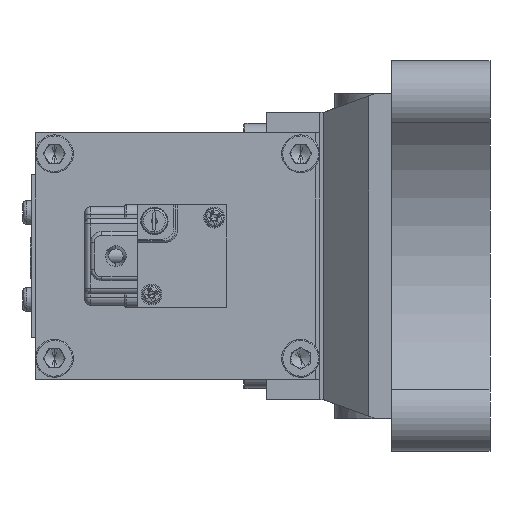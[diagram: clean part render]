
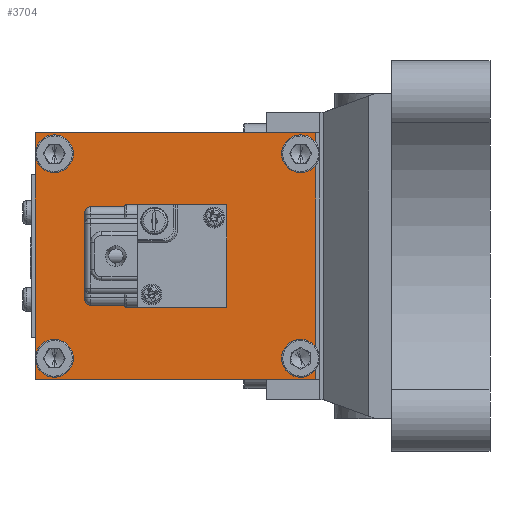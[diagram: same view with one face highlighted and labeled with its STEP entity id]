
A CAD part, left-side view. The second image highlights one B-rep face of the part: STEP entity #3704.
In plain terms, the highlighted planar face has unit normal (-1, 0, 0) as drawn and (1, 0, 0) by its records, which use the part's own axes.
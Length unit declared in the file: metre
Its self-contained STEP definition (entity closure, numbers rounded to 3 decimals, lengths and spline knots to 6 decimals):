
#183 = VECTOR ( 'NONE', #6155, 1. ) ;
#616 = AXIS2_PLACEMENT_3D ( 'NONE', #14444, #6645, #15755 ) ;
#646 = CARTESIAN_POINT ( 'NONE',  ( 0.08, 0.071, -0.024 ) ) ;
#668 = FACE_OUTER_BOUND ( 'NONE', #4512, .T. ) ;
#692 = CARTESIAN_POINT ( 'NONE',  ( 0.08, 0.006, 0.024 ) ) ;
#929 = DIRECTION ( 'NONE',  ( 1., 0., 0. ) ) ;
#989 = CIRCLE ( 'NONE', #8451, 0.003 ) ;
#1253 = EDGE_CURVE ( 'NONE', #10851, #3340, #15269, .T. ) ;
#1273 = VECTOR ( 'NONE', #12739, 1. ) ;
#1522 = VERTEX_POINT ( 'NONE', #13158 ) ;
#1697 = EDGE_CURVE ( 'NONE', #10309, #2876, #6268, .T. ) ;
#1699 = CARTESIAN_POINT ( 'NONE',  ( 0.08, 0.076, -0.0325 ) ) ;
#1804 = EDGE_CURVE ( 'NONE', #10595, #6824, #11958, .T. ) ;
#2137 = CARTESIAN_POINT ( 'NONE',  ( 0.08, 0.006, -0.027 ) ) ;
#2494 = EDGE_CURVE ( 'NONE', #2641, #15192, #11131, .T. ) ;
#2556 = VERTEX_POINT ( 'NONE', #9366 ) ;
#2641 = VERTEX_POINT ( 'NONE', #646 ) ;
#2772 = CARTESIAN_POINT ( 'NONE',  ( 0.08, 0.071, 0.03 ) ) ;
#2876 = VERTEX_POINT ( 'NONE', #14132 ) ;
#2915 = EDGE_CURVE ( 'NONE', #15192, #2641, #16204, .T. ) ;
#3018 = AXIS2_PLACEMENT_3D ( 'NONE', #5671, #5841, #6317 ) ;
#3340 = VERTEX_POINT ( 'NONE', #13738 ) ;
#3341 = ORIENTED_EDGE ( 'NONE', *, *, #11790, .F. ) ;
#3477 = DIRECTION ( 'NONE',  ( 0., 0., -1. ) ) ;
#3510 = LINE ( 'NONE', #13229, #12272 ) ;
#3704 = ADVANCED_FACE ( 'NONE', ( #7634, #4997, #14549, #4155, #668 ), #7284, .F. ) ;
#3721 = AXIS2_PLACEMENT_3D ( 'NONE', #14893, #14912, #14932 ) ;
#3784 = DIRECTION ( 'NONE',  ( 0., 0., -1. ) ) ;
#3909 = EDGE_LOOP ( 'NONE', ( #15126, #3341 ) ) ;
#3995 = EDGE_CURVE ( 'NONE', #8355, #1522, #11299, .T. ) ;
#4155 = FACE_BOUND ( 'NONE', #5351, .T. ) ;
#4512 = EDGE_LOOP ( 'NONE', ( #7330, #5057, #11263, #8601 ) ) ;
#4610 = DIRECTION ( 'NONE',  ( 0., 0., -1. ) ) ;
#4888 = CARTESIAN_POINT ( 'NONE',  ( 0.08, 0.071, 0.027 ) ) ;
#4997 = FACE_BOUND ( 'NONE', #6956, .T. ) ;
#5057 = ORIENTED_EDGE ( 'NONE', *, *, #8956, .F. ) ;
#5351 = EDGE_LOOP ( 'NONE', ( #12182, #12357 ) ) ;
#5366 = ORIENTED_EDGE ( 'NONE', *, *, #11886, .F. ) ;
#5671 = CARTESIAN_POINT ( 'NONE',  ( 0.08, 0.006, -0.027 ) ) ;
#5831 = AXIS2_PLACEMENT_3D ( 'NONE', #4888, #13982, #6197 ) ;
#5841 = DIRECTION ( 'NONE',  ( 1., 0., 0. ) ) ;
#6068 = CARTESIAN_POINT ( 'NONE',  ( 0.08, 0.006, -0.03 ) ) ;
#6155 = DIRECTION ( 'NONE',  ( 0., 0., 1. ) ) ;
#6197 = DIRECTION ( 'NONE',  ( 0., 0., -1. ) ) ;
#6268 = CIRCLE ( 'NONE', #11465, 0.003 ) ;
#6317 = DIRECTION ( 'NONE',  ( 0., 0., -1. ) ) ;
#6645 = DIRECTION ( 'NONE',  ( 1., 0., 0. ) ) ;
#6726 = ORIENTED_EDGE ( 'NONE', *, *, #1697, .F. ) ;
#6824 = VERTEX_POINT ( 'NONE', #2772 ) ;
#6941 = LINE ( 'NONE', #12906, #7783 ) ;
#6956 = EDGE_LOOP ( 'NONE', ( #10600, #7038 ) ) ;
#7038 = ORIENTED_EDGE ( 'NONE', *, *, #2494, .F. ) ;
#7148 = CARTESIAN_POINT ( 'NONE',  ( 0.08, 0.002, -0.0325 ) ) ;
#7284 = PLANE ( 'NONE',  #13772 ) ;
#7326 = DIRECTION ( 'NONE',  ( -1., 0., 0. ) ) ;
#7330 = ORIENTED_EDGE ( 'NONE', *, *, #11081, .F. ) ;
#7351 = DIRECTION ( 'NONE',  ( 0., 0., 1. ) ) ;
#7474 = AXIS2_PLACEMENT_3D ( 'NONE', #2137, #11296, #3477 ) ;
#7569 = EDGE_LOOP ( 'NONE', ( #6726, #5366 ) ) ;
#7634 = FACE_BOUND ( 'NONE', #3909, .T. ) ;
#7659 = CARTESIAN_POINT ( 'NONE',  ( 0.08, 0.006, 0.027 ) ) ;
#7783 = VECTOR ( 'NONE', #3784, 1. ) ;
#8355 = VERTEX_POINT ( 'NONE', #1699 ) ;
#8451 = AXIS2_PLACEMENT_3D ( 'NONE', #7659, #16783, #8977 ) ;
#8543 = CIRCLE ( 'NONE', #7474, 0.003 ) ;
#8601 = ORIENTED_EDGE ( 'NONE', *, *, #3995, .F. ) ;
#8763 = CARTESIAN_POINT ( 'NONE',  ( 0.08, 0.006, 0.027 ) ) ;
#8956 = EDGE_CURVE ( 'NONE', #15051, #2556, #3510, .T. ) ;
#8977 = DIRECTION ( 'NONE',  ( 0., 0., -1. ) ) ;
#9010 = CARTESIAN_POINT ( 'NONE',  ( 0.08, 0.071, -0.027 ) ) ;
#9075 = DIRECTION ( 'NONE',  ( 1., 0., 0. ) ) ;
#9096 = DIRECTION ( 'NONE',  ( 0., 0., -1. ) ) ;
#9366 = CARTESIAN_POINT ( 'NONE',  ( 0.08, 0.076, 0.0325 ) ) ;
#9613 = AXIS2_PLACEMENT_3D ( 'NONE', #9010, #9075, #9096 ) ;
#10309 = VERTEX_POINT ( 'NONE', #692 ) ;
#10544 = CARTESIAN_POINT ( 'NONE',  ( 0.08, 0.071, -0.03 ) ) ;
#10595 = VERTEX_POINT ( 'NONE', #11763 ) ;
#10600 = ORIENTED_EDGE ( 'NONE', *, *, #2915, .F. ) ;
#10615 = LINE ( 'NONE', #16571, #183 ) ;
#10665 = DIRECTION ( 'NONE',  ( 0., 1., 0. ) ) ;
#10851 = VERTEX_POINT ( 'NONE', #6068 ) ;
#11081 = EDGE_CURVE ( 'NONE', #2556, #8355, #6941, .T. ) ;
#11131 = CIRCLE ( 'NONE', #9613, 0.003 ) ;
#11263 = ORIENTED_EDGE ( 'NONE', *, *, #11365, .F. ) ;
#11296 = DIRECTION ( 'NONE',  ( 1., 0., 0. ) ) ;
#11299 = LINE ( 'NONE', #12620, #1273 ) ;
#11365 = EDGE_CURVE ( 'NONE', #1522, #15051, #10615, .T. ) ;
#11465 = AXIS2_PLACEMENT_3D ( 'NONE', #8763, #929, #4610 ) ;
#11763 = CARTESIAN_POINT ( 'NONE',  ( 0.08, 0.071, 0.024 ) ) ;
#11790 = EDGE_CURVE ( 'NONE', #6824, #10595, #12654, .T. ) ;
#11886 = EDGE_CURVE ( 'NONE', #2876, #10309, #989, .T. ) ;
#11958 = CIRCLE ( 'NONE', #616, 0.003 ) ;
#12182 = ORIENTED_EDGE ( 'NONE', *, *, #1253, .F. ) ;
#12272 = VECTOR ( 'NONE', #10665, 1. ) ;
#12357 = ORIENTED_EDGE ( 'NONE', *, *, #12757, .F. ) ;
#12620 = CARTESIAN_POINT ( 'NONE',  ( 0.08, 0.039, -0.0325 ) ) ;
#12654 = CIRCLE ( 'NONE', #5831, 0.003 ) ;
#12691 = CARTESIAN_POINT ( 'NONE',  ( 0.08, 0.002, 0.0325 ) ) ;
#12739 = DIRECTION ( 'NONE',  ( 0., -1., 0. ) ) ;
#12757 = EDGE_CURVE ( 'NONE', #3340, #10851, #8543, .T. ) ;
#12906 = CARTESIAN_POINT ( 'NONE',  ( 0.08, 0.076, 0. ) ) ;
#13158 = CARTESIAN_POINT ( 'NONE',  ( 0.08, 0.002, -0.0325 ) ) ;
#13229 = CARTESIAN_POINT ( 'NONE',  ( 0.08, 0.039, 0.0325 ) ) ;
#13738 = CARTESIAN_POINT ( 'NONE',  ( 0.08, 0.006, -0.024 ) ) ;
#13772 = AXIS2_PLACEMENT_3D ( 'NONE', #7148, #7326, #7351 ) ;
#13982 = DIRECTION ( 'NONE',  ( 1., 0., 0. ) ) ;
#14132 = CARTESIAN_POINT ( 'NONE',  ( 0.08, 0.006, 0.03 ) ) ;
#14444 = CARTESIAN_POINT ( 'NONE',  ( 0.08, 0.071, 0.027 ) ) ;
#14549 = FACE_BOUND ( 'NONE', #7569, .T. ) ;
#14893 = CARTESIAN_POINT ( 'NONE',  ( 0.08, 0.071, -0.027 ) ) ;
#14912 = DIRECTION ( 'NONE',  ( 1., 0., 0. ) ) ;
#14932 = DIRECTION ( 'NONE',  ( 0., 0., -1. ) ) ;
#15051 = VERTEX_POINT ( 'NONE', #12691 ) ;
#15126 = ORIENTED_EDGE ( 'NONE', *, *, #1804, .F. ) ;
#15192 = VERTEX_POINT ( 'NONE', #10544 ) ;
#15269 = CIRCLE ( 'NONE', #3018, 0.003 ) ;
#15755 = DIRECTION ( 'NONE',  ( 0., 0., -1. ) ) ;
#16204 = CIRCLE ( 'NONE', #3721, 0.003 ) ;
#16571 = CARTESIAN_POINT ( 'NONE',  ( 0.08, 0.002, 0. ) ) ;
#16783 = DIRECTION ( 'NONE',  ( 1., 0., 0. ) ) ;
